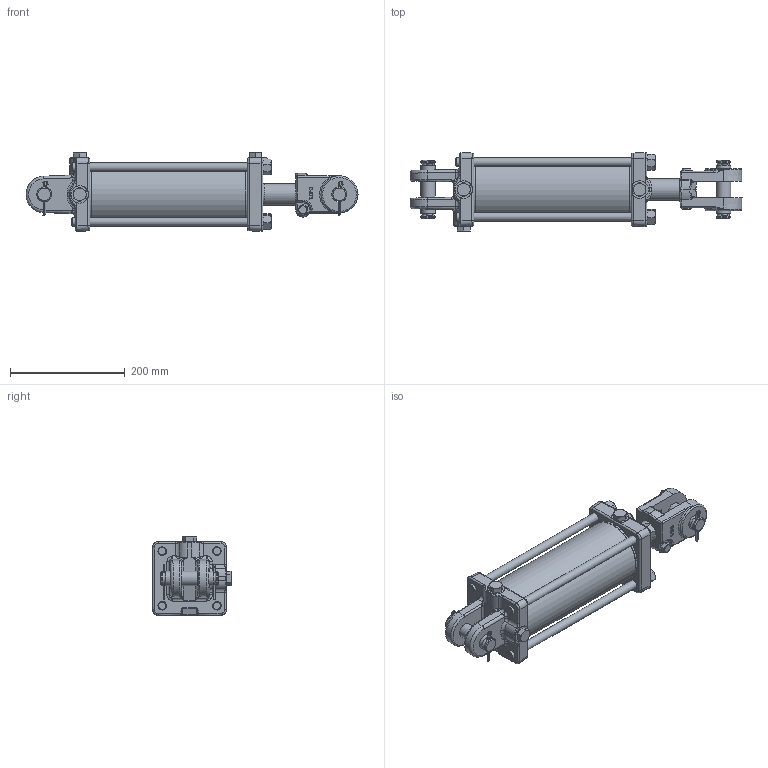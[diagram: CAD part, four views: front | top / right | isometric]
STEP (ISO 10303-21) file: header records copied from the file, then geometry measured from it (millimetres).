
FILE_DESCRIPTION((''),'2;1');
FILE_NAME('\\SRVR-ENG\EngSales\SAE-8608.stp','2013-09-11T08:37:40',('KneiflD'),(''),'Autodesk Inventor 2012','Autodesk Inventor 2012','');
FILE_SCHEMA(('AUTOMOTIVE_DESIGN { 1 0 10303 214 1 1 1 1 }'));
Length unit declared in the file: inch
Products named in the file (17): SAE-8608; 051910563AV; 1419005SFV; 010800005; 220000212V; 071900006; 081900231; 100000326; 100000325; 170002105; 220000223; 170301135; 800006201V_13.625; 220000107V; 200300040V; 190400035V; 220001504V
Assembly tree (25 placements, depth 3):
  SAE-8608
    051910563AV
    1419005SFV
    010800005
    220000212V
    071900006
    081900231
    100000326
      100000325
      170002105
      220000223
    170301135  x4
      800006201V_13.625
      220000107V
    200300040V  x3
    190400035V  x2
    220001504V  x4
Bounding box: 578.43 x 137.01 x 137.01 mm (x, y, z)
Volume: 2798788.8 mm3; surface area: 571944.6 mm2
Topology: 26 solids, 26 shells, 881 faces, 2051 edges, 1221 vertices
Faces by surface type: plane 274, cylinder 226, bspline 163, cone 159, torus 53, sphere 6
Full cylindrical faces by diameter (mm): 5.159 x4, 7.938 x3, 9.144 x1, 11.113 x2, 11.906 x2, 14.351 x4, 14.529 x4, 14.834 x4, 15.707 x1, 16.272 x4, 16.764 x3, 17.066 x2, 17.335 x1, 17.501 x2, 19.05 x3, 25.349 x1, 25.4 x6, 25.781 x4, 29.972 x1, 31.826 x1, 34.315 x1, 37.897 x1, 38.1 x1, 38.176 x2, 41.91 x1, 46.025 x1, 47.65 x1, 92.202 x1, 95.936 x1, 95.961 x1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
Entity records: 26401 total; most frequent: CARTESIAN_POINT 11602, ORIENTED_EDGE 2922, DIRECTION 2808, EDGE_CURVE 1461, AXIS2_PLACEMENT_3D 1160, VERTEX_POINT 938, EDGE_LOOP 875, FACE_OUTER_BOUND 688
